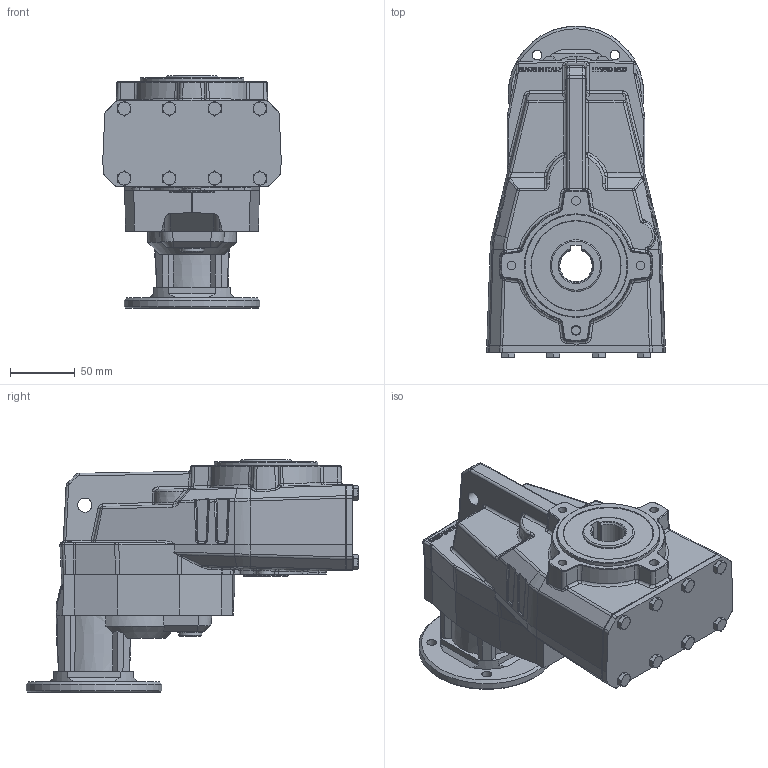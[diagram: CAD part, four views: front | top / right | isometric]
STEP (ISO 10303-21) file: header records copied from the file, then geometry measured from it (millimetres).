
FILE_DESCRIPTION( ( 'Unknown' ), '1' );
FILE_NAME( 'E:/services/configuratordownloads/customers/HYDROMEC/FLACH/download/22C8D90FCEDF15FAD8D9FE359E66ED/STEP/22C8D90FCEDF15FAD8D9FE359E66ED.3d.stp', 'Unknown', ( 'Unknown' ), ( 'Unknown' ), 'PSStep 10.1', 'Unknown', ' ' );
FILE_SCHEMA( ( 'AUTOMOTIVE_DESIGN { 1 0 10303 214 1 1 1 1 }' ) );
Length unit declared in the file: millimetre
Products named in the file (1): F308800ST
Bounding box: 138 x 256.68 x 179.5 mm (x, y, z)
Volume: 2280050 mm3; surface area: 167602.4 mm2
Topology: 1 solids, 29 shells, 1224 faces, 2861 edges, 1781 vertices
Faces by surface type: plane 576, cylinder 262, bspline 203, cone 144, torus 31, sphere 8
Full cylindrical faces by diameter (mm): 4.917 x17, 6 x8, 6.5 x8, 6.647 x4, 7.5 x4, 8.9 x8, 10 x6, 11 x1, 13.5 x1, 18 x1, 19 x1, 20 x1, 25 x1, 35 x1, 40 x3, 70 x1, 80 x1
Entity records: 54603 total; most frequent: CARTESIAN_POINT 19565, ORIENTED_EDGE 5284, DIRECTION 4612, EDGE_CURVE 2642, VERTEX_POINT 1708, AXIS2_PLACEMENT_3D 1651, EDGE_LOOP 1488, FACE_OUTER_BOUND 1324
